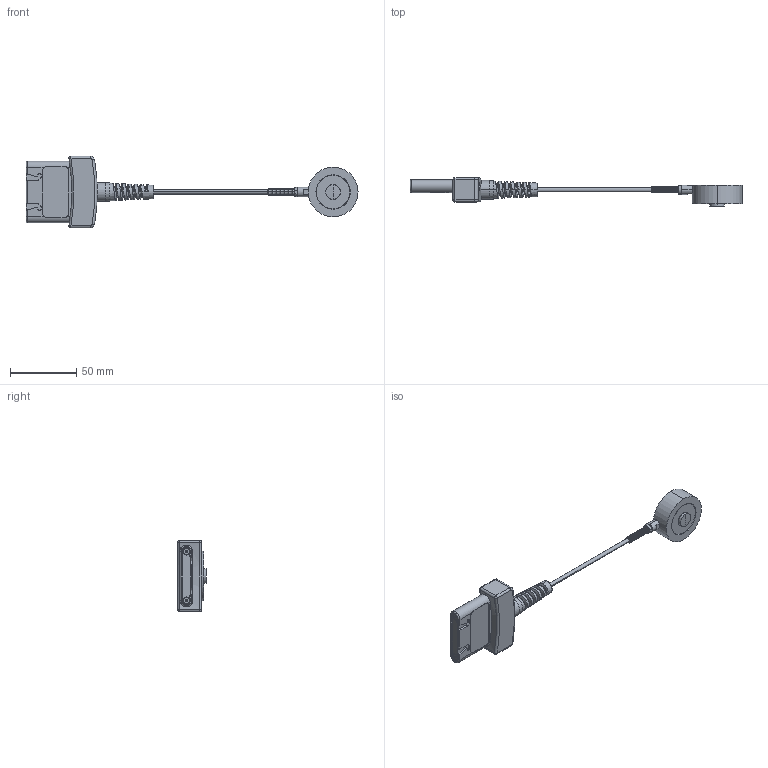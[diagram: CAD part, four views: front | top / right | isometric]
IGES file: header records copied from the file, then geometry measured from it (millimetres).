
Global section: file name: No Iges File Name specified; native system: Autodesk Inventor 2010; preprocessor: AutoDesk Inventor Iges Exporter R2010; author: mlampen; date: 20170601.105139; units: inch
Bounding box: 250.8 x 21.59 x 54.02 mm (x, y, z)
Volume: 51092 mm3; surface area: 19736 mm2
Topology: 5 solids, 5 shells, 557 faces, 1387 edges, 858 vertices
Faces by surface type: bspline 205, plane 124, revolution 109, cylinder 68, cone 29, torus 16, sphere 6
Full cylindrical faces by diameter (mm): 2.02 x12, 2.845 x14
